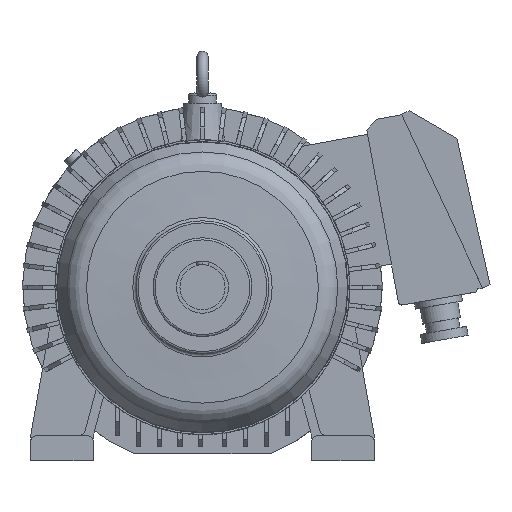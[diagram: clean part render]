
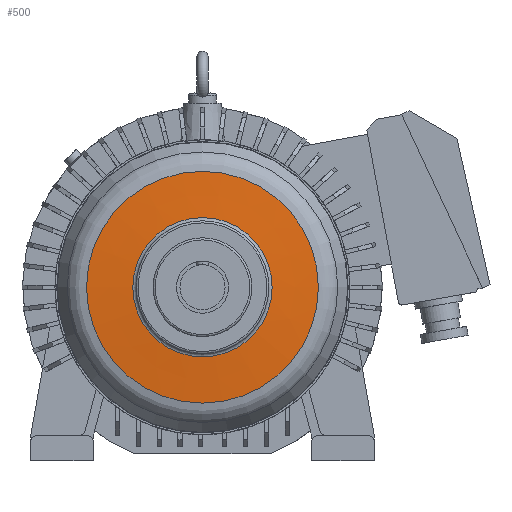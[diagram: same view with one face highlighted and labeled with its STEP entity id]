
A CAD part, front view. The second image highlights one B-rep face of the part: STEP entity #500.
In plain terms, the highlighted conical face has half-angle 86 degrees and reference radius 100.356 mm.
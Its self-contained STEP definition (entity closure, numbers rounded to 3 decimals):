
#500 = ADVANCED_FACE( '', ( #1431, #1432 ), #1433, .T. );
#1431 = FACE_OUTER_BOUND( '', #2434, .T. );
#1432 = FACE_BOUND( '', #2435, .T. );
#1433 = CONICAL_SURFACE( '', #2436, 100.357, 1.501 );
#2434 = EDGE_LOOP( '', ( #6169 ) );
#2435 = EDGE_LOOP( '', ( #6170 ) );
#2436 = AXIS2_PLACEMENT_3D( '', #6171, #6172, #6173 );
#6169 = ORIENTED_EDGE( '', *, *, #7550, .T. );
#6170 = ORIENTED_EDGE( '', *, *, #7551, .F. );
#6171 = CARTESIAN_POINT( '', ( 0., 177.208, 0. ) );
#6172 = DIRECTION( '', ( 0., 1., 0. ) );
#6173 = DIRECTION( '', ( -1., 0., 0. ) );
#7550 = EDGE_CURVE( '', #9618, #9618, #9619, .T. );
#7551 = EDGE_CURVE( '', #9620, #9620, #9621, .T. );
#9618 = VERTEX_POINT( '', #13454 );
#9619 = CIRCLE( '', #13455, 166.994 );
#9620 = VERTEX_POINT( '', #13456 );
#9621 = CIRCLE( '', #13457, 100.357 );
#13454 = CARTESIAN_POINT( '', ( 166.994, 181.868, 0. ) );
#13455 = AXIS2_PLACEMENT_3D( '', #15126, #15127, #15128 );
#13456 = CARTESIAN_POINT( '', ( 100.357, 177.208, 0. ) );
#13457 = AXIS2_PLACEMENT_3D( '', #15129, #15130, #15131 );
#15126 = CARTESIAN_POINT( '', ( 0., 181.868, 0. ) );
#15127 = DIRECTION( '', ( 0., -1., 0. ) );
#15128 = DIRECTION( '', ( 1., 0., 0. ) );
#15129 = CARTESIAN_POINT( '', ( 0., 177.208, 0. ) );
#15130 = DIRECTION( '', ( 0., -1., 0. ) );
#15131 = DIRECTION( '', ( 1., 0., 0. ) );
